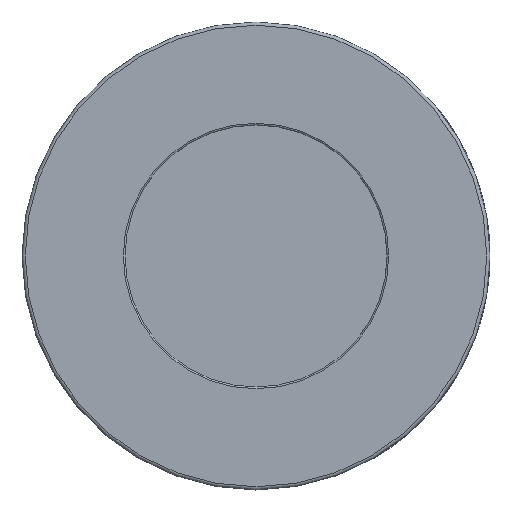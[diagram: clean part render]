
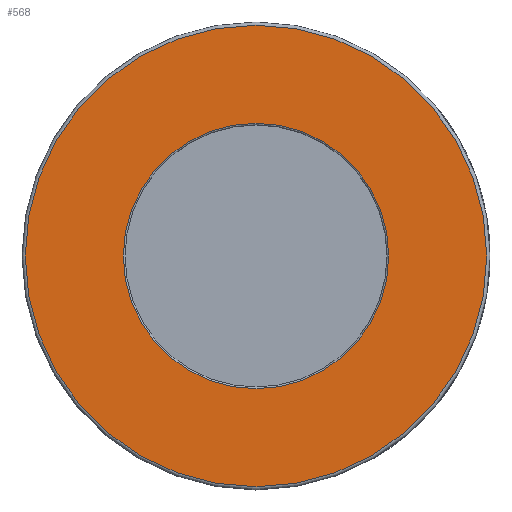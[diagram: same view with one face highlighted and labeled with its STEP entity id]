
A CAD part, left-side view. The second image highlights one B-rep face of the part: STEP entity #568.
In plain terms, the highlighted planar face has unit normal (-1, 0, 0).
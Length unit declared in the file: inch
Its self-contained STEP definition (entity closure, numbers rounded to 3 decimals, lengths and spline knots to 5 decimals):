
#568 = ADVANCED_FACE( '', ( #1188, #1189 ), #1190, .T. );
#1188 = FACE_BOUND( '', #3283, .T. );
#1189 = FACE_OUTER_BOUND( '', #3284, .T. );
#1190 = PLANE( '', #3285 );
#3283 = EDGE_LOOP( '', ( #4991 ) );
#3284 = EDGE_LOOP( '', ( #4992 ) );
#3285 = AXIS2_PLACEMENT_3D( '', #4993, #4994, #4995 );
#4991 = ORIENTED_EDGE( '', *, *, #5645, .T. );
#4992 = ORIENTED_EDGE( '', *, *, #5853, .T. );
#4993 = CARTESIAN_POINT( '', ( 0., 0., 0.805 ) );
#4994 = DIRECTION( '', ( -1., 0., 0. ) );
#4995 = DIRECTION( '', ( 0., 0., 1. ) );
#5645 = EDGE_CURVE( '', #6646, #6646, #6647, .F. );
#5853 = EDGE_CURVE( '', #6914, #6914, #6915, .T. );
#6646 = VERTEX_POINT( '', #8884 );
#6647 = CIRCLE( '', #8885, 0.815 );
#6914 = VERTEX_POINT( '', #9739 );
#6915 = CIRCLE( '', #9740, 1.4175 );
#8884 = CARTESIAN_POINT( '', ( 0., 0., 0.815 ) );
#8885 = AXIS2_PLACEMENT_3D( '', #9863, #9864, #9865 );
#9739 = CARTESIAN_POINT( '', ( 0., 0., 1.4175 ) );
#9740 = AXIS2_PLACEMENT_3D( '', #9878, #9879, #9880 );
#9863 = CARTESIAN_POINT( '', ( 0., 0., 0. ) );
#9864 = DIRECTION( '', ( -1., 0., 0. ) );
#9865 = DIRECTION( '', ( 0., 0., 1. ) );
#9878 = CARTESIAN_POINT( '', ( 0., 0., 0. ) );
#9879 = DIRECTION( '', ( -1., 0., 0. ) );
#9880 = DIRECTION( '', ( 0., 0., 1. ) );
